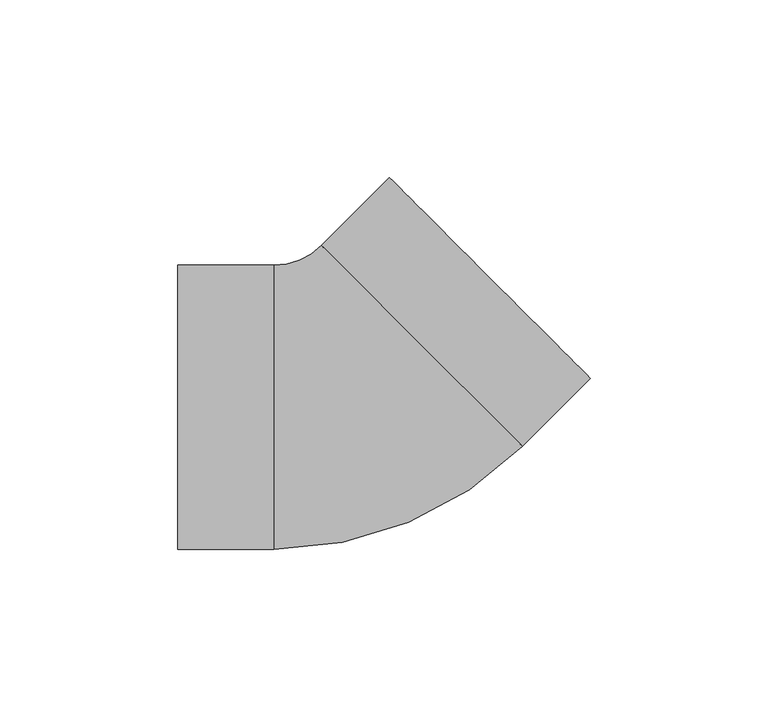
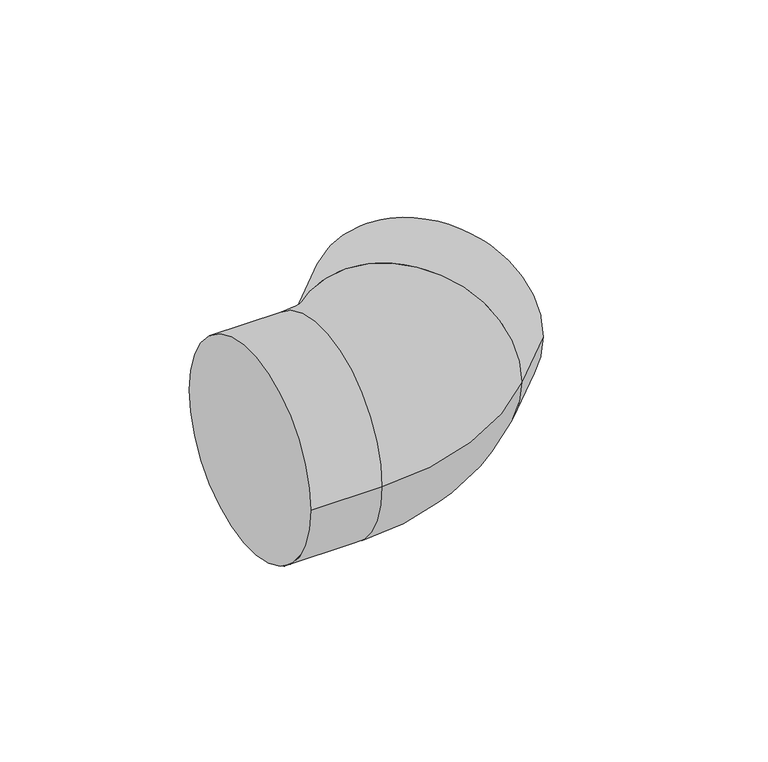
"""IFC4 building model written with IfcOpenShell, lengths in millimetres: pipe fitting geometry, PipeFitting_HTA_CPVC_Elbows : 63mm x 45°."""

import ifcopenshell
import ifcopenshell.guid

model = None  # the IFC model being written
_history = None  # IfcOwnerHistory: only IFC2X3 demands one
_inside = {}  # id of a spatial element -> (the spatial element, [elements in it])
_under = {}  # id of a project, library or spatial element -> (it, [spatial elements below it])
_declared = {}  # id of a project -> (the project, [libraries it declares])
_typed = {}  # id of a type object -> (the type object, [elements of that type])
_made_of = {}  # id of a material, layer set ... -> (it, [elements and type objects made of it])


def new_model(schema):
    """Start an empty IFC model of exactly this schema.

    Asked for "IFC4X3", IfcOpenShell would pick the latest addendum, in which some entities
    have other attributes; the version numbers below select the first issue.
    IFC2X3 requires an IfcOwnerHistory on every rooted entity: one is made here for all.
    """
    global model, _history
    if schema == "IFC4X3":
        model = ifcopenshell.file(schema_version=(4, 3, 0, 0))
    else:
        model = ifcopenshell.file(schema=schema)
    _inside.clear()
    _under.clear()
    _declared.clear()
    _typed.clear()
    _made_of.clear()
    _history = None
    if model.schema == "IFC2X3":
        org = make("IfcOrganization", Name="unknown")
        user = make(
            "IfcPersonAndOrganization",
            ThePerson=make("IfcPerson", FamilyName="unknown"),
            TheOrganization=org,
        )
        app = make(
            "IfcApplication",
            ApplicationDeveloper=org,
            Version="unknown",
            ApplicationFullName="unknown",
            ApplicationIdentifier="unknown",
        )
        _history = make(
            "IfcOwnerHistory",
            OwningUser=user,
            OwningApplication=app,
            ChangeAction="ADDED",
            CreationDate=0,
        )
    return model


def make(cls, **values):
    """One entity of the class cls with the attributes given. An attribute that is None is left unset."""
    return model.create_entity(
        cls, **{name: value for name, value in values.items() if value is not None}
    )


def rooted(cls, **values):
    """An entity with a GlobalId (a new one), such as an element, a storey or a relation."""
    return make(cls, GlobalId=ifcopenshell.guid.new(), OwnerHistory=_history, **values)


def si_unit(unit_type, name, prefix=None):
    """IfcSIUnit, for example si_unit("LENGTHUNIT", "METRE", prefix="MILLI")."""
    return make("IfcSIUnit", UnitType=unit_type, Prefix=prefix, Name=name)


def assignment(units):
    """IfcUnitAssignment: the units of a project."""
    return None if units is None else make("IfcUnitAssignment", Units=units)


def point(xyz):
    """IfcCartesianPoint."""
    return None if xyz is None else make("IfcCartesianPoint", Coordinates=xyz)


def direction(xyz):
    """IfcDirection."""
    return None if xyz is None else make("IfcDirection", DirectionRatios=xyz)


def frame(location, z_axis=None, x_axis=None):
    """IfcAxis2Placement3D, a coordinate frame: its origin and axes. An axis left out is left unset."""
    return make(
        "IfcAxis2Placement3D",
        Location=point(location),
        Axis=direction(z_axis),
        RefDirection=direction(x_axis),
    )


def origin():
    """The frame at (0, 0, 0) with its axes left unset."""
    return frame((0.0, 0.0, 0.0))


def place(relative_to, where):
    """IfcLocalPlacement: puts the frame where relative to a parent placement (None: the world)."""
    return make(
        "IfcLocalPlacement", PlacementRelTo=relative_to, RelativePlacement=where
    )


def context(
    kind, dimensions, precision=None, world=None, true_north=None, identifier=None
):
    """IfcGeometricRepresentationContext, for example the 3D "Model" context."""
    return make(
        "IfcGeometricRepresentationContext",
        ContextIdentifier=identifier,
        ContextType=kind,
        CoordinateSpaceDimension=dimensions,
        Precision=precision,
        WorldCoordinateSystem=world,
        TrueNorth=true_north,
    )


def project(units=None, contexts=None):
    """IfcProject with its units and contexts."""
    return rooted(
        "IfcProject",
        Name="project",
        RepresentationContexts=contexts,
        UnitsInContext=assignment(units),
    )


def spatial(cls, under=None, at=None, **own):
    """A site, building, storey or space (cls), placed at a placement, below another one or the project."""
    s = rooted(cls, ObjectPlacement=at, **own)
    if under is not None:
        _under.setdefault(under.id(), (under, []))[1].append(s)
    return s


def circle_curve(where, radius):
    """IfcCircle in the frame where."""
    return make("IfcCircle", Position=where, Radius=radius)


def ellipse_curve(where, semi_axis1, semi_axis2):
    """IfcEllipse in the frame where."""
    return make(
        "IfcEllipse", Position=where, SemiAxis1=semi_axis1, SemiAxis2=semi_axis2
    )


def trimmed(basis, trim1, trim2, sense, master):
    """IfcTrimmedCurve: the piece of a basis curve between two trims."""
    return make(
        "IfcTrimmedCurve",
        BasisCurve=basis,
        Trim1=trim1,
        Trim2=trim2,
        SenseAgreement=sense,
        MasterRepresentation=master,
    )


def shape(context_of_items, identifier, shape_type, items):
    """IfcShapeRepresentation: the items that make up one representation, for example the "Body"."""
    return make(
        "IfcShapeRepresentation",
        ContextOfItems=context_of_items,
        RepresentationIdentifier=identifier,
        RepresentationType=shape_type,
        Items=items,
    )


def source(mapping_origin, context_of_items, identifier, shape_type, items):
    """IfcRepresentationMap: a shape defined once, which mapped items show again and again."""
    return make(
        "IfcRepresentationMap",
        MappingOrigin=mapping_origin,
        MappedRepresentation=shape(context_of_items, identifier, shape_type, items),
    )


def transform(
    local_origin,
    x_axis=None,
    y_axis=None,
    z_axis=None,
    scale=None,
    scale2=None,
    scale3=None,
    uniform=True,
):
    """IfcCartesianTransformationOperator3D, or its non-uniform kind. x_axis, y_axis, z_axis: its Axis1, 2, 3."""
    if uniform:
        return make(
            "IfcCartesianTransformationOperator3D",
            Axis1=direction(x_axis),
            Axis2=direction(y_axis),
            LocalOrigin=point(local_origin),
            Scale=scale,
            Axis3=direction(z_axis),
        )
    return make(
        "IfcCartesianTransformationOperator3DnonUniform",
        Axis1=direction(x_axis),
        Axis2=direction(y_axis),
        LocalOrigin=point(local_origin),
        Scale=scale,
        Axis3=direction(z_axis),
        Scale2=scale2,
        Scale3=scale3,
    )


def mapped(mapping_source, mapping_target):
    """IfcMappedItem: shows the shape of a source again, moved by a transform."""
    return make(
        "IfcMappedItem", MappingSource=mapping_source, MappingTarget=mapping_target
    )


def made_of(thing, what):
    """Note that an element or type object is made of a material, layer set ...; save() writes the relation."""
    if what is not None:
        _made_of.setdefault(what.id(), (what, []))[1].append(thing)
    return thing


def element(
    cls,
    number,
    at=None,
    inside=None,
    cuts=None,
    type_object=None,
    material=None,
    context=None,
    identifier="Body",
    shape_type=None,
    held_by="IfcProductDefinitionShape",
    body=None,
    shapes=None,
    **own,
):
    """One element of the class cls, such as IfcWall. Its Tag is "e" and its number.

    at: its placement. inside: the storey or other place that contains it. cuts: it is an
    opening in that element (IfcRelVoidsElement). A single representation is given by context,
    identifier, shape_type and body (its items); several are given by shapes. held_by: the class
    of the entity that holds the representations. save() writes the other relations.
    """
    e = rooted(cls, Tag="e%d" % number, ObjectPlacement=at, **own)
    if body is not None:
        shapes = [shape(context, identifier, shape_type, body)]
    if shapes is not None:
        e.Representation = make(held_by, Representations=shapes)
    if inside is not None:
        _inside.setdefault(inside.id(), (inside, []))[1].append(e)
    if cuts is not None:
        rooted(
            "IfcRelVoidsElement", RelatingBuildingElement=cuts, RelatedOpeningElement=e
        )
    if type_object is not None:
        _typed.setdefault(type_object.id(), (type_object, []))[1].append(e)
    return made_of(e, material)


def aggregate(whole, parts):
    """IfcRelAggregates: a whole, such as a stair, and the parts it consists of."""
    return rooted("IfcRelAggregates", RelatingObject=whole, RelatedObjects=parts)


def save(model, path):
    """Write the relations noted so far, then the file.

    IfcRelAggregates (storeys below a building ...), IfcRelContainedInSpatialStructure (elements
    in a storey), IfcRelDefinesByType, IfcRelAssociatesMaterial and IfcRelDeclares: one each for
    every whole, place, type object, material and project.
    """
    for whole, parts in _under.values():
        aggregate(whole, parts)
    for where, things in _inside.values():
        rooted(
            "IfcRelContainedInSpatialStructure",
            RelatedElements=things,
            RelatingStructure=where,
        )
    for kind, things in _typed.values():
        rooted("IfcRelDefinesByType", RelatedObjects=things, RelatingType=kind)
    for what, things in _made_of.values():
        rooted("IfcRelAssociatesMaterial", RelatedObjects=things, RelatingMaterial=what)
    for by, libraries in _declared.values():
        rooted("IfcRelDeclares", RelatingContext=by, RelatedDefinitions=libraries)
    model.write(path)


def plane_surface(at):
    """IfcPlane: the flat surface through the origin of the frame at, square to its z axis."""
    return make("IfcPlane", Position=at)


def cylinder_surface(at, radius):
    """IfcCylindricalSurface: all points at the distance radius from the z axis of the frame at."""
    return make("IfcCylindricalSurface", Position=at, Radius=radius)


def revolved_surface(curve, axis_point, axis_direction):
    """IfcSurfaceOfRevolution: the curve turned about the line through axis_point along axis_direction."""
    return make(
        "IfcSurfaceOfRevolution",
        SweptCurve=make("IfcArbitraryOpenProfileDef", ProfileType="CURVE", Curve=curve),
        AxisPosition=make("IfcAxis1Placement", Location=point(axis_point), Axis=direction(axis_direction)),
    )


def advanced_brep(points, edges, surfaces, faces):
    """IfcAdvancedBrep: a solid bounded by faces that lie on surfaces and meet in shared edges.

    An edge is (start, end): straight between two places in points (the first is 0);
    or (start, end, curve); or (start, end, curve, False) where it runs against its curve.
    A face is (place in surfaces, loops), or (place, loops, False) where it looks against
    its surface's normal. A loop lists edges by number (the first is 1), with a minus sign
    where the edge is run from its end to its start. The first loop is the outer one.
    """
    corners = [point(p) for p in points]
    vertices = [make("IfcVertexPoint", VertexGeometry=c) for c in corners]
    made = []
    for start, end, *more in edges:
        made.append(
            make(
                "IfcEdgeCurve",
                EdgeStart=vertices[start],
                EdgeEnd=vertices[end],
                EdgeGeometry=more[0] if more else make("IfcPolyline", Points=[corners[start], corners[end]]),
                SameSense=more[1] if len(more) > 1 else True,
            )
        )
    hull = []
    for where, loops, *sense in faces:
        bounds = []
        for j, loop in enumerate(loops):
            ring = [make("IfcOrientedEdge", EdgeElement=made[abs(k) - 1], Orientation=k > 0) for k in loop]
            bounds.append(
                make(
                    "IfcFaceOuterBound" if j == 0 else "IfcFaceBound",
                    Bound=make("IfcEdgeLoop", EdgeList=ring),
                    Orientation=True,
                )
            )
        hull.append(make("IfcAdvancedFace", Bounds=bounds, FaceSurface=surfaces[where], SameSense=sense[0] if sense else True))
    return make("IfcAdvancedBrep", Outer=make("IfcClosedShell", CfsFaces=hull))


def pipe_fitting_7a057d5c(model_context):
    return source(origin(), model_context, "Body", "AdvancedBrep", [
        advanced_brep(
        [(-51.5, -40.0, 0.0), (-51.5, 40.0, 0.0), (-24.4386002, -40.0, 0.0), (-24.4386002, 40.0, 0.0), (-11.0035713, 45.5649712, 0.0), (45.5649712, -11.0035713, 0.0), (64.7002705, 8.131728, 0.0), (8.131728, 64.7002705, 0.0)],
        [
            (0, 1, circle_curve(frame((-51.5, 0.0, 0.0), z_axis=(-1.0, 0.0, 0.0), x_axis=(0.0, 1.0, 0.0)), 40.0)),
            (1, 0, circle_curve(frame((-51.5, 0.0, 0.0), z_axis=(-1.0, 0.0, 0.0), x_axis=(0.0, 1.0, 0.0)), 40.0)),
            (0, 2),
            (2, 3, circle_curve(frame((-24.4386002, 0.0, 0.0), z_axis=(-1.0, 0.0, 0.0), x_axis=(0.0, 1.0, 0.0)), 40.0)),
            (3, 1),
            (3, 2, circle_curve(frame((-24.4386002, 0.0, 0.0), z_axis=(-1.0, 0.0, 0.0), x_axis=(0.0, 1.0, 0.0)), 40.0)),
            (4, 3, circle_curve(frame((-24.4386002, 59.0, 0.0), z_axis=(0.0, 0.0, -1.0), x_axis=(0.0, -1.0, 0.0)), 19.0)),
            (2, 5, circle_curve(frame((-24.4386002, 59.0, 0.0), z_axis=(0.0, 0.0, 1.0), x_axis=(0.0, -1.0, 0.0)), 99.0)),
            (5, 4, circle_curve(frame((17.2806999, 17.2806999, 0.0), z_axis=(-0.7071067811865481, -0.7071067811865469, 0.0), x_axis=(-0.7071067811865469, 0.7071067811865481, 0.0)), 40.0)),
            (4, 5, circle_curve(frame((17.2806999, 17.2806999, 0.0), z_axis=(-0.7071067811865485, -0.7071067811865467, 0.0), x_axis=(-0.7071067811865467, 0.7071067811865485, 0.0)), 40.0)),
            (6, 7, circle_curve(frame((36.4159992, 36.4159992, 0.0), z_axis=(0.707106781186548, 0.7071067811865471, 0.0), x_axis=(-0.7071067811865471, 0.707106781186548, 0.0)), 40.0)),
            (7, 6, circle_curve(frame((36.4159992, 36.4159992, 0.0), z_axis=(0.707106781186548, 0.7071067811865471, 0.0), x_axis=(-0.7071067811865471, 0.707106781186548, 0.0)), 40.0)),
            (5, 6),
            (7, 4),
        ],
        [
            plane_surface(frame((-51.5, 0.0, 0.0), z_axis=(-1.0, 0.0, 0.0), x_axis=(0.0, 0.0, 1.0))),
            cylinder_surface(frame((-51.5, 0.0, 0.0), z_axis=(-1.0, 0.0, 0.0), x_axis=(0.0, 1.0, 0.0)), 40.0),
            revolved_surface(trimmed(ellipse_curve(frame((-24.4386002, 0.0, 0.0), z_axis=(-1.0, 0.0, 0.0), x_axis=(0.0, 1.0, 0.0)), 40.0, 40.0), [point((-24.4386002, -40.0, 0.0))], [point((-24.4386002, 40.0, 0.0))], True, "CARTESIAN"), (-24.4386002, 59.0, 0.0), (0.0, 0.0, 1.0)),
            revolved_surface(trimmed(ellipse_curve(frame((-24.4386002, 0.0, 0.0), z_axis=(-1.0, 0.0, 0.0), x_axis=(0.0, 1.0, 0.0)), 40.0, 40.0), [point((-24.4386002, 40.0, 0.0))], [point((-24.4386002, -40.0, 0.0))], True, "CARTESIAN"), (-24.4386002, 59.0, 0.0), (0.0, 0.0, 1.0)),
            plane_surface(frame((36.4159992, 36.4159992, 0.0), z_axis=(0.707106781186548, 0.7071067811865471, 0.0), x_axis=(0.0, 0.0, 1.0))),
            cylinder_surface(frame((17.2806999, 17.2806999, 0.0), z_axis=(-0.707106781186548, -0.7071067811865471, 0.0), x_axis=(-0.7071067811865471, 0.707106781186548, 0.0)), 40.0),
        ],
        [
            (0, [[1, 2]]),
            (1, [[-1, 3, 4, 5]]),
            (1, [[-2, -5, 6, -3]]),
            (2, [[7, -4, 8, 9]]),
            (3, [[-8, -6, -7, 10]]),
            (4, [[11, 12]]),
            (5, [[-9, 13, -12, 14]]),
            (5, [[-10, -14, -11, -13]]),
        ],
    ),
    ])


if __name__ == "__main__":
    model = new_model("IFC4")
    model_context = context("Model", 3, world=origin())
    ifc_project = project(units=[si_unit("LENGTHUNIT", "METRE", prefix="MILLI")], contexts=[model_context])
    site = spatial("IfcSite", under=ifc_project)
    building = spatial("IfcBuilding", under=site)
    placement = place(None, origin())
    pipe_fitting_shape = pipe_fitting_7a057d5c(model_context)
    element("IfcPipeFitting", 1, ObjectType="PipeFitting_HTA_CPVC_Elbows : 63mm x 45°", at=placement, inside=building, context=model_context, shape_type="MappedRepresentation", body=[
        mapped(pipe_fitting_shape, transform((0.0, 0.0, 0.0), x_axis=(1.0, 0.0, 0.0), y_axis=(0.0, 1.0, 0.0), z_axis=(0.0, 0.0, 1.0))),
    ])
    save(model, "model.ifc")
